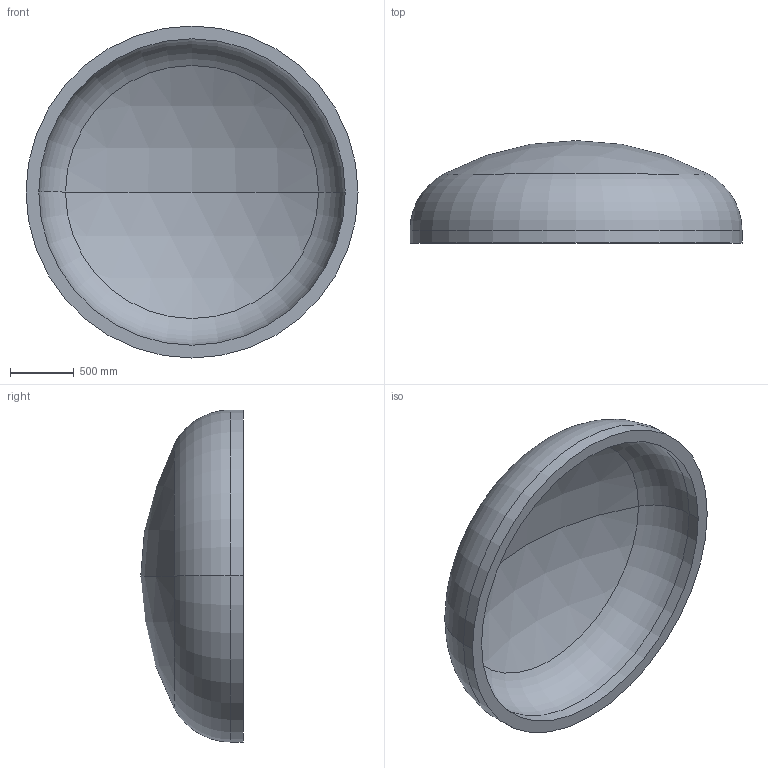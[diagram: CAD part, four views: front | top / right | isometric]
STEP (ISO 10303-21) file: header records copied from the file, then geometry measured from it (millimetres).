
FILE_DESCRIPTION (( 'STEP AP203' ), '1' );
FILE_NAME ('DIN 28013 Korbbogenform_-_Boden DIN 28013 - 2600 x 100 - I - s=100.step', '2016-07-01T16:31:16', ( '' ), ( '' ), 'SwSTEP 2.0', 'SolidWorks 2013', '' );
FILE_SCHEMA (( 'CONFIG_CONTROL_DESIGN' ));
Length unit declared in the file: millimetre
Products named in the file (1): DIN 28013 Korbbogenform_-_Boden DIN 28013 - 2600 x 100 - I - s=100
Bounding box: 2600 x 802.71 x 2600 mm (x, y, z)
Volume: 777936666 mm3; surface area: 16365070.7 mm2
Topology: 1 solids, 1 shells, 13 faces, 24 edges, 14 vertices
Faces by surface type: torus 4, cylinder 4, sphere 4, plane 1
Entity records: 407 total; most frequent: DIRECTION 72, CARTESIAN_POINT 52, ORIENTED_EDGE 48, AXIS2_PLACEMENT_3D 34, EDGE_CURVE 24, CIRCLE 20, EDGE_LOOP 14, VERTEX_POINT 14
